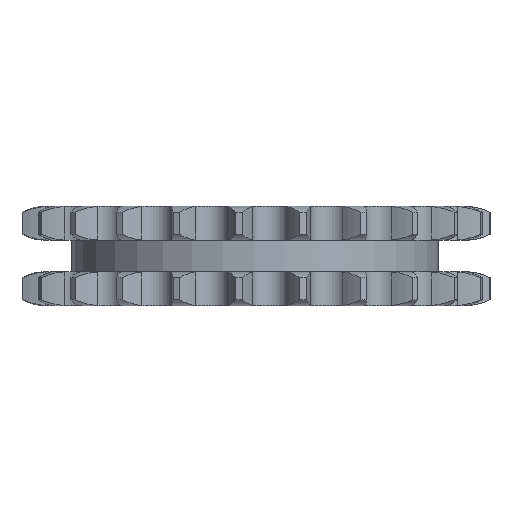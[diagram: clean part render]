
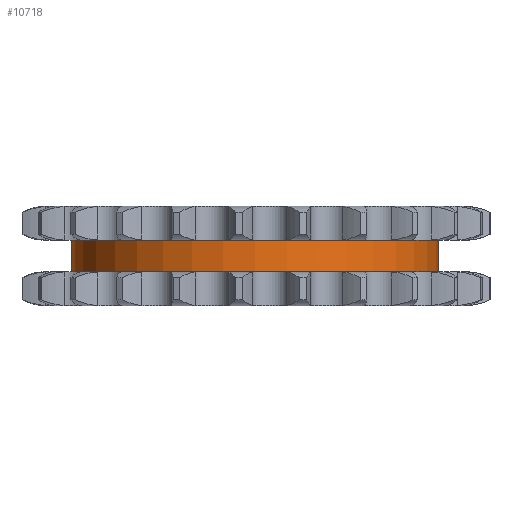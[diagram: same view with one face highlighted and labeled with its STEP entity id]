
A CAD part, left-side view. The second image highlights one B-rep face of the part: STEP entity #10718.
In plain terms, the highlighted cylindrical face has radius 38.634 mm (diameter 77.268 mm), a partial arc.
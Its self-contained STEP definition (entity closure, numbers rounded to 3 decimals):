
#1426=DIRECTION('',(0.,0.,-1.));
#1427=VECTOR('',#1426,6.6);
#1428=CARTESIAN_POINT('',(0.,38.634,3.3));
#1429=LINE('',#1428,#1427);
#1433=CARTESIAN_POINT('',(0.,0.,3.3));
#1434=DIRECTION('',(0.,0.,1.));
#1435=DIRECTION('',(0.,1.,0.));
#1436=AXIS2_PLACEMENT_3D('',#1433,#1434,#1435);
#1441=DIRECTION('',(0.,0.,-1.));
#1442=VECTOR('',#1441,6.6);
#1443=CARTESIAN_POINT('',(0.,-38.634,3.3));
#1444=LINE('',#1443,#1442);
#1448=CARTESIAN_POINT('',(0.,0.,-3.3));
#1449=DIRECTION('',(0.,0.,1.));
#1450=DIRECTION('',(0.,1.,0.));
#1451=AXIS2_PLACEMENT_3D('',#1448,#1449,#1450);
#8335=CARTESIAN_POINT('',(0.,38.634,3.3));
#8336=CARTESIAN_POINT('',(0.,38.634,-3.3));
#8337=VERTEX_POINT('',#8335);
#8338=VERTEX_POINT('',#8336);
#8339=CARTESIAN_POINT('',(0.,-38.634,3.3));
#8340=CARTESIAN_POINT('',(0.,-38.634,-3.3));
#8341=VERTEX_POINT('',#8339);
#8342=VERTEX_POINT('',#8340);
#10706=CARTESIAN_POINT('',(0.,0.,3.63));
#10707=DIRECTION('',(0.,0.,-1.));
#10708=DIRECTION('',(0.,-1.,0.));
#10709=AXIS2_PLACEMENT_3D('',#10706,#10707,#10708);
#10710=CYLINDRICAL_SURFACE('',#10709,38.634);
#10711=ORIENTED_EDGE('',*,*,#10696,.F.);
#10712=ORIENTED_EDGE('',*,*,#10686,.T.);
#10713=ORIENTED_EDGE('',*,*,#10700,.T.);
#10715=ORIENTED_EDGE('',*,*,#10714,.F.);
#10716=EDGE_LOOP('',(#10711,#10712,#10713,#10715));
#10717=FACE_OUTER_BOUND('',#10716,.F.);
#10718=ADVANCED_FACE('',(#10717),#10710,.T.);
#1437=CIRCLE('',#1436,38.634);
#1452=CIRCLE('',#1451,38.634);
#10686=EDGE_CURVE('',#8337,#8341,#1437,.T.);
#10696=EDGE_CURVE('',#8337,#8338,#1429,.T.);
#10700=EDGE_CURVE('',#8341,#8342,#1444,.T.);
#10714=EDGE_CURVE('',#8338,#8342,#1452,.T.);
